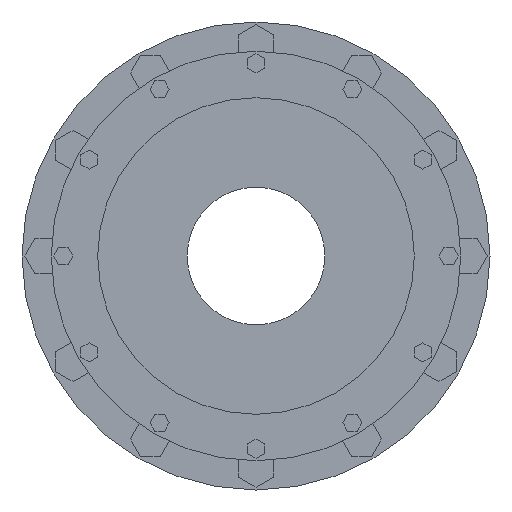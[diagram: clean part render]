
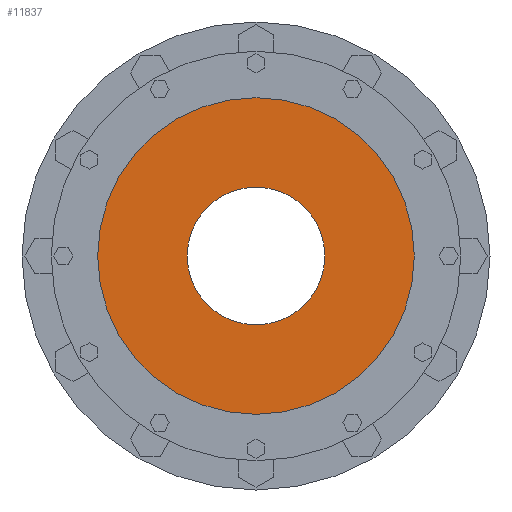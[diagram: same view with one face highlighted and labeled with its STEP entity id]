
A CAD part, left-side view. The second image highlights one B-rep face of the part: STEP entity #11837.
In plain terms, the highlighted planar face has unit normal (-1, 0, 0) as drawn and (1, 0, 0) by its records, which use the part's own axes.
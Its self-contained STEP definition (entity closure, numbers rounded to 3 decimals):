
#11661=CARTESIAN_POINT('',(-10.,0.,0.));
#11662=DIRECTION('',(1.,0.,0.));
#11663=DIRECTION('',(0.,1.,0.));
#11664=AXIS2_PLACEMENT_3D('',#11661,#11662,#11663);
#11671=CARTESIAN_POINT('',(-10.,0.,0.));
#11672=DIRECTION('',(-1.,0.,0.));
#11673=DIRECTION('',(0.,1.,0.));
#11674=AXIS2_PLACEMENT_3D('',#11671,#11672,#11673);
#11676=CARTESIAN_POINT('',(-10.,0.,0.));
#11677=DIRECTION('',(1.,0.,0.));
#11678=DIRECTION('',(0.,1.,0.));
#11679=AXIS2_PLACEMENT_3D('',#11676,#11677,#11678);
#11755=CARTESIAN_POINT('',(-10.,0.,0.));
#11756=DIRECTION('',(1.,0.,0.));
#11757=DIRECTION('',(0.,-1.,0.));
#11758=AXIS2_PLACEMENT_3D('',#11755,#11756,#11757);
#11782=CARTESIAN_POINT('',(-10.,230.,0.));
#11784=VERTEX_POINT('',#11782);
#11786=CARTESIAN_POINT('',(-10.,-230.,0.));
#11788=VERTEX_POINT('',#11786);
#11793=CARTESIAN_POINT('',(-10.,100.,0.));
#11794=CARTESIAN_POINT('',(-10.,-100.,0.));
#11795=VERTEX_POINT('',#11793);
#11796=VERTEX_POINT('',#11794);
#11821=CARTESIAN_POINT('',(-10.,0.,0.));
#11822=DIRECTION('',(1.,0.,0.));
#11823=DIRECTION('',(0.,-1.,0.));
#11824=AXIS2_PLACEMENT_3D('',#11821,#11822,#11823);
#11825=PLANE('',#11824);
#11827=ORIENTED_EDGE('',*,*,#11826,.T.);
#11829=ORIENTED_EDGE('',*,*,#11828,.F.);
#11830=EDGE_LOOP('',(#11827,#11829));
#11831=FACE_OUTER_BOUND('',#11830,.F.);
#11832=ORIENTED_EDGE('',*,*,#11810,.T.);
#11834=ORIENTED_EDGE('',*,*,#11833,.T.);
#11835=EDGE_LOOP('',(#11832,#11834));
#11836=FACE_BOUND('',#11835,.F.);
#11837=ADVANCED_FACE('',(#11831,#11836),#11825,.T.);
#11665=CIRCLE('',#11664,100.);
#11675=CIRCLE('',#11674,230.);
#11680=CIRCLE('',#11679,230.);
#11759=CIRCLE('',#11758,100.);
#11810=EDGE_CURVE('',#11795,#11796,#11665,.T.);
#11826=EDGE_CURVE('',#11784,#11788,#11675,.T.);
#11828=EDGE_CURVE('',#11784,#11788,#11680,.T.);
#11833=EDGE_CURVE('',#11796,#11795,#11759,.T.);
